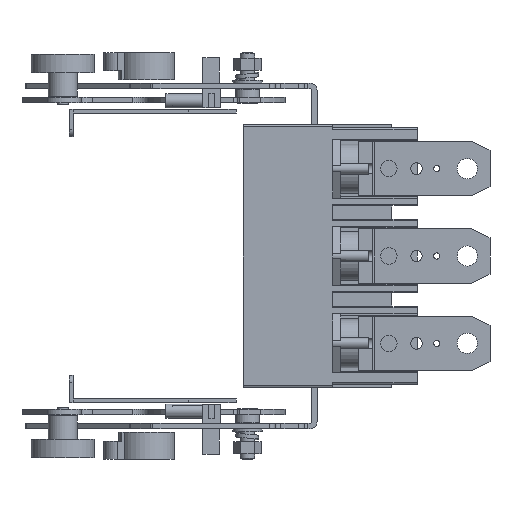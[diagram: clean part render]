
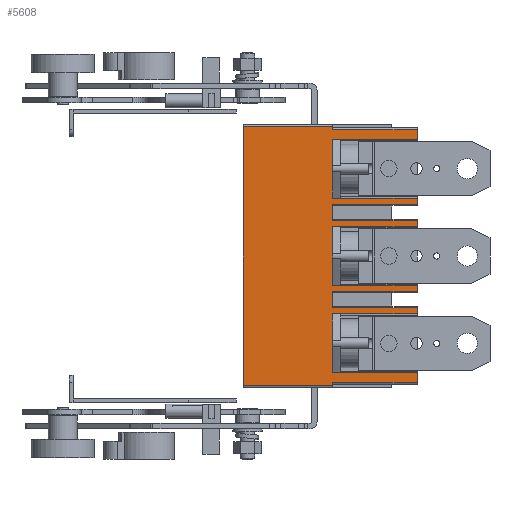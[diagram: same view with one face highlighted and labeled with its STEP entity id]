
A CAD part, left-side view. The second image highlights one B-rep face of the part: STEP entity #5608.
In plain terms, the highlighted planar face has unit normal (-1, 0, 0).
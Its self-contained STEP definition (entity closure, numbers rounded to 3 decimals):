
#5608=ADVANCED_FACE('',(#9255),#7631,.T.);
#7631=PLANE('',#44033);
#9255=FACE_OUTER_BOUND('',#11547,.T.);
#11547=EDGE_LOOP('',(#17799,#17800,#17801,#17802,#17803,#17804,#17805,#17806,
#17807,#17808,#17809,#17810,#17811,#17812,#17813,#17814,#17815,#17816,#17817,
#17818,#17819,#17820,#17821,#17822,#17823,#17824,#17825,#17826));
#17799=ORIENTED_EDGE('',*,*,#31256,.T.);
#17800=ORIENTED_EDGE('',*,*,#31281,.T.);
#17801=ORIENTED_EDGE('',*,*,#31282,.F.);
#17802=ORIENTED_EDGE('',*,*,#31283,.T.);
#17803=ORIENTED_EDGE('',*,*,#31284,.T.);
#17804=ORIENTED_EDGE('',*,*,#31285,.T.);
#17805=ORIENTED_EDGE('',*,*,#31286,.F.);
#17806=ORIENTED_EDGE('',*,*,#31287,.T.);
#17807=ORIENTED_EDGE('',*,*,#31288,.T.);
#17808=ORIENTED_EDGE('',*,*,#31289,.T.);
#17809=ORIENTED_EDGE('',*,*,#31290,.F.);
#17810=ORIENTED_EDGE('',*,*,#31291,.T.);
#17811=ORIENTED_EDGE('',*,*,#31292,.T.);
#17812=ORIENTED_EDGE('',*,*,#31293,.T.);
#17813=ORIENTED_EDGE('',*,*,#31294,.F.);
#17814=ORIENTED_EDGE('',*,*,#31295,.T.);
#17815=ORIENTED_EDGE('',*,*,#31296,.T.);
#17816=ORIENTED_EDGE('',*,*,#31297,.T.);
#17817=ORIENTED_EDGE('',*,*,#31298,.F.);
#17818=ORIENTED_EDGE('',*,*,#31299,.T.);
#17819=ORIENTED_EDGE('',*,*,#31300,.T.);
#17820=ORIENTED_EDGE('',*,*,#31301,.F.);
#17821=ORIENTED_EDGE('',*,*,#31302,.F.);
#17822=ORIENTED_EDGE('',*,*,#31303,.T.);
#17823=ORIENTED_EDGE('',*,*,#31304,.T.);
#17824=ORIENTED_EDGE('',*,*,#31305,.F.);
#17825=ORIENTED_EDGE('',*,*,#31306,.F.);
#17826=ORIENTED_EDGE('',*,*,#31307,.T.);
#26606=VERTEX_POINT('',#67555);
#26607=VERTEX_POINT('',#67557);
#26630=VERTEX_POINT('',#67607);
#26631=VERTEX_POINT('',#67609);
#26632=VERTEX_POINT('',#67611);
#26633=VERTEX_POINT('',#67613);
#26634=VERTEX_POINT('',#67615);
#26635=VERTEX_POINT('',#67617);
#26636=VERTEX_POINT('',#67619);
#26637=VERTEX_POINT('',#67621);
#26638=VERTEX_POINT('',#67623);
#26639=VERTEX_POINT('',#67625);
#26640=VERTEX_POINT('',#67627);
#26641=VERTEX_POINT('',#67629);
#26642=VERTEX_POINT('',#67631);
#26643=VERTEX_POINT('',#67633);
#26644=VERTEX_POINT('',#67635);
#26645=VERTEX_POINT('',#67637);
#26646=VERTEX_POINT('',#67639);
#26647=VERTEX_POINT('',#67641);
#26648=VERTEX_POINT('',#67643);
#26649=VERTEX_POINT('',#67645);
#26650=VERTEX_POINT('',#67647);
#26651=VERTEX_POINT('',#67649);
#26652=VERTEX_POINT('',#67651);
#26653=VERTEX_POINT('',#67653);
#26654=VERTEX_POINT('',#67655);
#26655=VERTEX_POINT('',#67657);
#31256=EDGE_CURVE('',#26607,#26606,#36302,.T.);
#31281=EDGE_CURVE('',#26606,#26630,#36326,.T.);
#31282=EDGE_CURVE('',#26631,#26630,#36327,.T.);
#31283=EDGE_CURVE('',#26631,#26632,#36328,.T.);
#31284=EDGE_CURVE('',#26632,#26633,#36329,.T.);
#31285=EDGE_CURVE('',#26633,#26634,#36330,.T.);
#31286=EDGE_CURVE('',#26635,#26634,#36331,.T.);
#31287=EDGE_CURVE('',#26635,#26636,#36332,.T.);
#31288=EDGE_CURVE('',#26636,#26637,#36333,.T.);
#31289=EDGE_CURVE('',#26637,#26638,#36334,.T.);
#31290=EDGE_CURVE('',#26639,#26638,#36335,.T.);
#31291=EDGE_CURVE('',#26639,#26640,#36336,.T.);
#31292=EDGE_CURVE('',#26640,#26641,#36337,.T.);
#31293=EDGE_CURVE('',#26641,#26642,#36338,.T.);
#31294=EDGE_CURVE('',#26643,#26642,#36339,.T.);
#31295=EDGE_CURVE('',#26643,#26644,#36340,.T.);
#31296=EDGE_CURVE('',#26644,#26645,#36341,.T.);
#31297=EDGE_CURVE('',#26645,#26646,#36342,.T.);
#31298=EDGE_CURVE('',#26647,#26646,#36343,.T.);
#31299=EDGE_CURVE('',#26647,#26648,#36344,.T.);
#31300=EDGE_CURVE('',#26648,#26649,#36345,.T.);
#31301=EDGE_CURVE('',#26650,#26649,#36346,.T.);
#31302=EDGE_CURVE('',#26651,#26650,#36347,.T.);
#31303=EDGE_CURVE('',#26651,#26652,#36348,.T.);
#31304=EDGE_CURVE('',#26652,#26653,#36349,.T.);
#31305=EDGE_CURVE('',#26654,#26653,#36350,.T.);
#31306=EDGE_CURVE('',#26655,#26654,#36351,.T.);
#31307=EDGE_CURVE('',#26655,#26607,#36352,.T.);
#36302=LINE('',#67556,#40220);
#36326=LINE('',#67606,#40244);
#36327=LINE('',#67608,#40245);
#36328=LINE('',#67610,#40246);
#36329=LINE('',#67612,#40247);
#36330=LINE('',#67614,#40248);
#36331=LINE('',#67616,#40249);
#36332=LINE('',#67618,#40250);
#36333=LINE('',#67620,#40251);
#36334=LINE('',#67622,#40252);
#36335=LINE('',#67624,#40253);
#36336=LINE('',#67626,#40254);
#36337=LINE('',#67628,#40255);
#36338=LINE('',#67630,#40256);
#36339=LINE('',#67632,#40257);
#36340=LINE('',#67634,#40258);
#36341=LINE('',#67636,#40259);
#36342=LINE('',#67638,#40260);
#36343=LINE('',#67640,#40261);
#36344=LINE('',#67642,#40262);
#36345=LINE('',#67644,#40263);
#36346=LINE('',#67646,#40264);
#36347=LINE('',#67648,#40265);
#36348=LINE('',#67650,#40266);
#36349=LINE('',#67652,#40267);
#36350=LINE('',#67654,#40268);
#36351=LINE('',#67656,#40269);
#36352=LINE('',#67658,#40270);
#40220=VECTOR('',#50522,1.);
#40244=VECTOR('',#50552,1.);
#40245=VECTOR('',#50553,1.);
#40246=VECTOR('',#50554,1.);
#40247=VECTOR('',#50555,1.);
#40248=VECTOR('',#50556,1.);
#40249=VECTOR('',#50557,1.);
#40250=VECTOR('',#50558,1.);
#40251=VECTOR('',#50559,1.);
#40252=VECTOR('',#50560,1.);
#40253=VECTOR('',#50561,1.);
#40254=VECTOR('',#50562,1.);
#40255=VECTOR('',#50563,1.);
#40256=VECTOR('',#50564,1.);
#40257=VECTOR('',#50565,1.);
#40258=VECTOR('',#50566,1.);
#40259=VECTOR('',#50567,1.);
#40260=VECTOR('',#50568,1.);
#40261=VECTOR('',#50569,1.);
#40262=VECTOR('',#50570,1.);
#40263=VECTOR('',#50571,1.);
#40264=VECTOR('',#50572,1.);
#40265=VECTOR('',#50573,1.);
#40266=VECTOR('',#50574,1.);
#40267=VECTOR('',#50575,1.);
#40268=VECTOR('',#50576,1.);
#40269=VECTOR('',#50577,1.);
#40270=VECTOR('',#50578,1.);
#44033=AXIS2_PLACEMENT_3D('',#67659,#50579,#50580);
#50522=DIRECTION('',(0.,1.,0.));
#50552=DIRECTION('',(0.,0.,-1.));
#50553=DIRECTION('',(0.,1.,0.));
#50554=DIRECTION('',(0.,0.,1.));
#50555=DIRECTION('',(0.,-1.,0.));
#50556=DIRECTION('',(0.,0.,1.));
#50557=DIRECTION('',(0.,-1.,0.));
#50558=DIRECTION('',(0.,0.,1.));
#50559=DIRECTION('',(0.,-1.,0.));
#50560=DIRECTION('',(0.,0.,1.));
#50561=DIRECTION('',(0.,-1.,0.));
#50562=DIRECTION('',(0.,0.,1.));
#50563=DIRECTION('',(0.,-1.,0.));
#50564=DIRECTION('',(0.,0.,1.));
#50565=DIRECTION('',(0.,-1.,0.));
#50566=DIRECTION('',(0.,0.,1.));
#50567=DIRECTION('',(0.,-1.,0.));
#50568=DIRECTION('',(0.,0.,1.));
#50569=DIRECTION('',(0.,-1.,0.));
#50570=DIRECTION('',(0.,0.,1.));
#50571=DIRECTION('',(0.,-1.,0.));
#50572=DIRECTION('',(0.,0.,-1.));
#50573=DIRECTION('',(0.,-1.,0.));
#50574=DIRECTION('',(0.,0.,1.));
#50575=DIRECTION('',(0.,-1.,0.));
#50576=DIRECTION('',(0.,0.,-1.));
#50577=DIRECTION('',(0.,-1.,0.));
#50578=DIRECTION('',(0.,0.,1.));
#50579=DIRECTION('',(-1.,0.,0.));
#50580=DIRECTION('',(0.,1.,0.));
#67555=CARTESIAN_POINT('',(1362.291,-112.376,160.2));
#67556=CARTESIAN_POINT('',(1362.291,-112.376,160.2));
#67557=CARTESIAN_POINT('',(1362.291,-161.376,160.2));
#67606=CARTESIAN_POINT('',(1362.291,-112.376,157.7));
#67607=CARTESIAN_POINT('',(1362.291,-112.376,18.2));
#67608=CARTESIAN_POINT('',(1362.291,-112.276,18.2));
#67609=CARTESIAN_POINT('',(1362.291,-161.376,18.2));
#67610=CARTESIAN_POINT('',(1362.291,-161.376,67.35));
#67611=CARTESIAN_POINT('',(1362.291,-161.376,19.8));
#67612=CARTESIAN_POINT('',(1362.291,-166.376,19.8));
#67613=CARTESIAN_POINT('',(1362.291,-207.876,19.8));
#67614=CARTESIAN_POINT('',(1362.291,-207.876,22.3));
#67615=CARTESIAN_POINT('',(1362.291,-207.876,25.));
#67616=CARTESIAN_POINT('',(1362.291,-166.376,25.));
#67617=CARTESIAN_POINT('',(1362.291,-161.376,25.));
#67618=CARTESIAN_POINT('',(1362.291,-161.376,63.2));
#67619=CARTESIAN_POINT('',(1362.291,-161.376,57.4));
#67620=CARTESIAN_POINT('',(1362.291,-166.376,57.4));
#67621=CARTESIAN_POINT('',(1362.291,-207.876,57.4));
#67622=CARTESIAN_POINT('',(1362.291,-207.876,22.3));
#67623=CARTESIAN_POINT('',(1362.291,-207.876,60.8));
#67624=CARTESIAN_POINT('',(1362.291,-166.376,60.8));
#67625=CARTESIAN_POINT('',(1362.291,-161.376,60.8));
#67626=CARTESIAN_POINT('',(1362.291,-161.376,67.2));
#67627=CARTESIAN_POINT('',(1362.291,-161.376,69.6));
#67628=CARTESIAN_POINT('',(1362.291,-112.376,69.6));
#67629=CARTESIAN_POINT('',(1362.291,-207.876,69.6));
#67630=CARTESIAN_POINT('',(1362.291,-207.876,-312.316));
#67631=CARTESIAN_POINT('',(1362.291,-207.876,73.));
#67632=CARTESIAN_POINT('',(1362.291,-166.376,73.));
#67633=CARTESIAN_POINT('',(1362.291,-161.376,73.));
#67634=CARTESIAN_POINT('',(1362.291,-161.376,67.2));
#67635=CARTESIAN_POINT('',(1362.291,-161.376,105.4));
#67636=CARTESIAN_POINT('',(1362.291,-166.376,105.4));
#67637=CARTESIAN_POINT('',(1362.291,-207.876,105.4));
#67638=CARTESIAN_POINT('',(1362.291,-207.876,-312.316));
#67639=CARTESIAN_POINT('',(1362.291,-207.876,108.8));
#67640=CARTESIAN_POINT('',(1362.291,-166.376,108.8));
#67641=CARTESIAN_POINT('',(1362.291,-161.376,108.8));
#67642=CARTESIAN_POINT('',(1362.291,-161.376,71.2));
#67643=CARTESIAN_POINT('',(1362.291,-161.376,117.6));
#67644=CARTESIAN_POINT('',(1362.291,-166.376,117.6));
#67645=CARTESIAN_POINT('',(1362.291,-207.876,117.6));
#67646=CARTESIAN_POINT('',(1362.291,-207.876,156.1));
#67647=CARTESIAN_POINT('',(1362.291,-207.876,121.));
#67648=CARTESIAN_POINT('',(1362.291,-166.376,121.));
#67649=CARTESIAN_POINT('',(1362.291,-161.376,121.));
#67650=CARTESIAN_POINT('',(1362.291,-161.376,77.85));
#67651=CARTESIAN_POINT('',(1362.291,-161.376,153.4));
#67652=CARTESIAN_POINT('',(1362.291,-166.376,153.4));
#67653=CARTESIAN_POINT('',(1362.291,-207.876,153.4));
#67654=CARTESIAN_POINT('',(1362.291,-207.876,156.1));
#67655=CARTESIAN_POINT('',(1362.291,-207.876,158.6));
#67656=CARTESIAN_POINT('',(1362.291,-166.376,158.6));
#67657=CARTESIAN_POINT('',(1362.291,-161.376,158.6));
#67658=CARTESIAN_POINT('',(1362.291,-161.376,80.35));
#67659=CARTESIAN_POINT('',(1362.291,-112.376,157.7));
